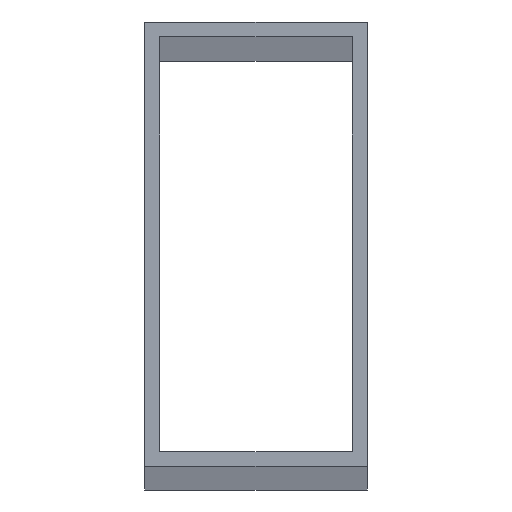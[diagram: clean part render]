
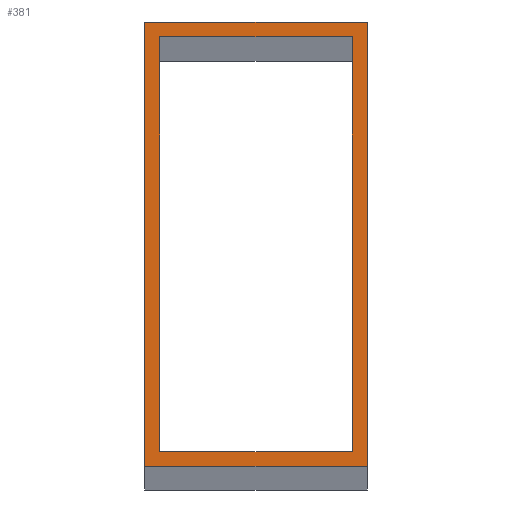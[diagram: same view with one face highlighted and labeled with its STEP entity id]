
A CAD part, top view. The second image highlights one B-rep face of the part: STEP entity #381.
In plain terms, the highlighted planar face has unit normal (0, 0, 1).
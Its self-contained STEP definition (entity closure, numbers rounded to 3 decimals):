
#32 = PLANE('',#33);
#33 = AXIS2_PLACEMENT_3D('',#34,#35,#36);
#34 = CARTESIAN_POINT('',(-37.5,-75.,-80.));
#35 = DIRECTION('',(0.,1.,0.));
#36 = DIRECTION('',(1.,0.,0.));
#55 = VERTEX_POINT('',#56);
#56 = CARTESIAN_POINT('',(-37.5,-75.,4648.118));
#70 = PLANE('',#71);
#71 = AXIS2_PLACEMENT_3D('',#72,#73,#74);
#72 = CARTESIAN_POINT('',(-37.5,75.,-80.));
#73 = DIRECTION('',(1.,0.,-0.));
#74 = DIRECTION('',(0.,-1.,0.));
#82 = EDGE_CURVE('',#55,#83,#85,.T.);
#83 = VERTEX_POINT('',#84);
#84 = CARTESIAN_POINT('',(37.5,-75.,4648.118));
#85 = SURFACE_CURVE('',#86,(#90,#97),.PCURVE_S1.);
#86 = LINE('',#87,#88);
#87 = CARTESIAN_POINT('',(-37.5,-75.,4648.118));
#88 = VECTOR('',#89,1.);
#89 = DIRECTION('',(1.,0.,0.));
#90 = PCURVE('',#32,#91);
#91 = DEFINITIONAL_REPRESENTATION('',(#92),#96);
#92 = LINE('',#93,#94);
#93 = CARTESIAN_POINT('',(0.,-4728.118));
#94 = VECTOR('',#95,1.);
#95 = DIRECTION('',(1.,0.));
#96 = ( GEOMETRIC_REPRESENTATION_CONTEXT(2) 
PARAMETRIC_REPRESENTATION_CONTEXT() REPRESENTATION_CONTEXT('2D SPACE',''
  ) );
#97 = PCURVE('',#98,#103);
#98 = PLANE('',#99);
#99 = AXIS2_PLACEMENT_3D('',#100,#101,#102);
#100 = CARTESIAN_POINT('',(0.,0.,4648.118));
#101 = DIRECTION('',(0.,0.,1.));
#102 = DIRECTION('',(1.,0.,-0.));
#103 = DEFINITIONAL_REPRESENTATION('',(#104),#108);
#104 = LINE('',#105,#106);
#105 = CARTESIAN_POINT('',(-37.5,-75.));
#106 = VECTOR('',#107,1.);
#107 = DIRECTION('',(1.,0.));
#108 = ( GEOMETRIC_REPRESENTATION_CONTEXT(2) 
PARAMETRIC_REPRESENTATION_CONTEXT() REPRESENTATION_CONTEXT('2D SPACE',''
  ) );
#124 = PLANE('',#125);
#125 = AXIS2_PLACEMENT_3D('',#126,#127,#128);
#126 = CARTESIAN_POINT('',(37.5,-75.,-80.));
#127 = DIRECTION('',(-1.,0.,0.));
#128 = DIRECTION('',(0.,1.,0.));
#223 = PLANE('',#224);
#224 = AXIS2_PLACEMENT_3D('',#225,#226,#227);
#225 = CARTESIAN_POINT('',(32.5,-70.,-80.));
#226 = DIRECTION('',(-1.,0.,0.));
#227 = DIRECTION('',(0.,1.,0.));
#249 = PLANE('',#250);
#250 = AXIS2_PLACEMENT_3D('',#251,#252,#253);
#251 = CARTESIAN_POINT('',(-32.5,-70.,-80.));
#252 = DIRECTION('',(0.,1.,0.));
#253 = DIRECTION('',(1.,0.,0.));
#275 = PLANE('',#276);
#276 = AXIS2_PLACEMENT_3D('',#277,#278,#279);
#277 = CARTESIAN_POINT('',(-32.5,70.,-80.));
#278 = DIRECTION('',(1.,0.,-0.));
#279 = DIRECTION('',(0.,-1.,0.));
#310 = EDGE_CURVE('',#83,#311,#313,.T.);
#311 = VERTEX_POINT('',#312);
#312 = CARTESIAN_POINT('',(37.5,75.,4648.118));
#313 = SURFACE_CURVE('',#314,(#318,#325),.PCURVE_S1.);
#314 = LINE('',#315,#316);
#315 = CARTESIAN_POINT('',(37.5,-75.,4648.118));
#316 = VECTOR('',#317,1.);
#317 = DIRECTION('',(0.,1.,0.));
#318 = PCURVE('',#124,#319);
#319 = DEFINITIONAL_REPRESENTATION('',(#320),#324);
#320 = LINE('',#321,#322);
#321 = CARTESIAN_POINT('',(0.,-4728.118));
#322 = VECTOR('',#323,1.);
#323 = DIRECTION('',(1.,0.));
#324 = ( GEOMETRIC_REPRESENTATION_CONTEXT(2) 
PARAMETRIC_REPRESENTATION_CONTEXT() REPRESENTATION_CONTEXT('2D SPACE',''
  ) );
#325 = PCURVE('',#98,#326);
#326 = DEFINITIONAL_REPRESENTATION('',(#327),#331);
#327 = LINE('',#328,#329);
#328 = CARTESIAN_POINT('',(37.5,-75.));
#329 = VECTOR('',#330,1.);
#330 = DIRECTION('',(0.,1.));
#331 = ( GEOMETRIC_REPRESENTATION_CONTEXT(2) 
PARAMETRIC_REPRESENTATION_CONTEXT() REPRESENTATION_CONTEXT('2D SPACE',''
  ) );
#349 = PLANE('',#350);
#350 = AXIS2_PLACEMENT_3D('',#351,#352,#353);
#351 = CARTESIAN_POINT('',(37.5,75.,-80.));
#352 = DIRECTION('',(0.,-1.,0.));
#353 = DIRECTION('',(-1.,0.,0.));
#381 = ADVANCED_FACE('',(#382,#430),#98,.T.);
#382 = FACE_BOUND('',#383,.T.);
#383 = EDGE_LOOP('',(#384,#385,#386,#409));
#384 = ORIENTED_EDGE('',*,*,#82,.T.);
#385 = ORIENTED_EDGE('',*,*,#310,.T.);
#386 = ORIENTED_EDGE('',*,*,#387,.T.);
#387 = EDGE_CURVE('',#311,#388,#390,.T.);
#388 = VERTEX_POINT('',#389);
#389 = CARTESIAN_POINT('',(-37.5,75.,4648.118));
#390 = SURFACE_CURVE('',#391,(#395,#402),.PCURVE_S1.);
#391 = LINE('',#392,#393);
#392 = CARTESIAN_POINT('',(37.5,75.,4648.118));
#393 = VECTOR('',#394,1.);
#394 = DIRECTION('',(-1.,0.,0.));
#395 = PCURVE('',#98,#396);
#396 = DEFINITIONAL_REPRESENTATION('',(#397),#401);
#397 = LINE('',#398,#399);
#398 = CARTESIAN_POINT('',(37.5,75.));
#399 = VECTOR('',#400,1.);
#400 = DIRECTION('',(-1.,0.));
#401 = ( GEOMETRIC_REPRESENTATION_CONTEXT(2) 
PARAMETRIC_REPRESENTATION_CONTEXT() REPRESENTATION_CONTEXT('2D SPACE',''
  ) );
#402 = PCURVE('',#349,#403);
#403 = DEFINITIONAL_REPRESENTATION('',(#404),#408);
#404 = LINE('',#405,#406);
#405 = CARTESIAN_POINT('',(0.,-4728.118));
#406 = VECTOR('',#407,1.);
#407 = DIRECTION('',(1.,0.));
#408 = ( GEOMETRIC_REPRESENTATION_CONTEXT(2) 
PARAMETRIC_REPRESENTATION_CONTEXT() REPRESENTATION_CONTEXT('2D SPACE',''
  ) );
#409 = ORIENTED_EDGE('',*,*,#410,.T.);
#410 = EDGE_CURVE('',#388,#55,#411,.T.);
#411 = SURFACE_CURVE('',#412,(#416,#423),.PCURVE_S1.);
#412 = LINE('',#413,#414);
#413 = CARTESIAN_POINT('',(-37.5,75.,4648.118));
#414 = VECTOR('',#415,1.);
#415 = DIRECTION('',(0.,-1.,0.));
#416 = PCURVE('',#98,#417);
#417 = DEFINITIONAL_REPRESENTATION('',(#418),#422);
#418 = LINE('',#419,#420);
#419 = CARTESIAN_POINT('',(-37.5,75.));
#420 = VECTOR('',#421,1.);
#421 = DIRECTION('',(0.,-1.));
#422 = ( GEOMETRIC_REPRESENTATION_CONTEXT(2) 
PARAMETRIC_REPRESENTATION_CONTEXT() REPRESENTATION_CONTEXT('2D SPACE',''
  ) );
#423 = PCURVE('',#70,#424);
#424 = DEFINITIONAL_REPRESENTATION('',(#425),#429);
#425 = LINE('',#426,#427);
#426 = CARTESIAN_POINT('',(0.,-4728.118));
#427 = VECTOR('',#428,1.);
#428 = DIRECTION('',(1.,0.));
#429 = ( GEOMETRIC_REPRESENTATION_CONTEXT(2) 
PARAMETRIC_REPRESENTATION_CONTEXT() REPRESENTATION_CONTEXT('2D SPACE',''
  ) );
#430 = FACE_BOUND('',#431,.F.);
#431 = EDGE_LOOP('',(#432,#457,#480,#508));
#432 = ORIENTED_EDGE('',*,*,#433,.T.);
#433 = EDGE_CURVE('',#434,#436,#438,.T.);
#434 = VERTEX_POINT('',#435);
#435 = CARTESIAN_POINT('',(-32.5,-70.,4648.118));
#436 = VERTEX_POINT('',#437);
#437 = CARTESIAN_POINT('',(32.5,-70.,4648.118));
#438 = SURFACE_CURVE('',#439,(#443,#450),.PCURVE_S1.);
#439 = LINE('',#440,#441);
#440 = CARTESIAN_POINT('',(-32.5,-70.,4648.118));
#441 = VECTOR('',#442,1.);
#442 = DIRECTION('',(1.,0.,0.));
#443 = PCURVE('',#98,#444);
#444 = DEFINITIONAL_REPRESENTATION('',(#445),#449);
#445 = LINE('',#446,#447);
#446 = CARTESIAN_POINT('',(-32.5,-70.));
#447 = VECTOR('',#448,1.);
#448 = DIRECTION('',(1.,0.));
#449 = ( GEOMETRIC_REPRESENTATION_CONTEXT(2) 
PARAMETRIC_REPRESENTATION_CONTEXT() REPRESENTATION_CONTEXT('2D SPACE',''
  ) );
#450 = PCURVE('',#249,#451);
#451 = DEFINITIONAL_REPRESENTATION('',(#452),#456);
#452 = LINE('',#453,#454);
#453 = CARTESIAN_POINT('',(0.,-4728.118));
#454 = VECTOR('',#455,1.);
#455 = DIRECTION('',(1.,0.));
#456 = ( GEOMETRIC_REPRESENTATION_CONTEXT(2) 
PARAMETRIC_REPRESENTATION_CONTEXT() REPRESENTATION_CONTEXT('2D SPACE',''
  ) );
#457 = ORIENTED_EDGE('',*,*,#458,.T.);
#458 = EDGE_CURVE('',#436,#459,#461,.T.);
#459 = VERTEX_POINT('',#460);
#460 = CARTESIAN_POINT('',(32.5,70.,4648.118));
#461 = SURFACE_CURVE('',#462,(#466,#473),.PCURVE_S1.);
#462 = LINE('',#463,#464);
#463 = CARTESIAN_POINT('',(32.5,-70.,4648.118));
#464 = VECTOR('',#465,1.);
#465 = DIRECTION('',(0.,1.,0.));
#466 = PCURVE('',#98,#467);
#467 = DEFINITIONAL_REPRESENTATION('',(#468),#472);
#468 = LINE('',#469,#470);
#469 = CARTESIAN_POINT('',(32.5,-70.));
#470 = VECTOR('',#471,1.);
#471 = DIRECTION('',(0.,1.));
#472 = ( GEOMETRIC_REPRESENTATION_CONTEXT(2) 
PARAMETRIC_REPRESENTATION_CONTEXT() REPRESENTATION_CONTEXT('2D SPACE',''
  ) );
#473 = PCURVE('',#223,#474);
#474 = DEFINITIONAL_REPRESENTATION('',(#475),#479);
#475 = LINE('',#476,#477);
#476 = CARTESIAN_POINT('',(0.,-4728.118));
#477 = VECTOR('',#478,1.);
#478 = DIRECTION('',(1.,0.));
#479 = ( GEOMETRIC_REPRESENTATION_CONTEXT(2) 
PARAMETRIC_REPRESENTATION_CONTEXT() REPRESENTATION_CONTEXT('2D SPACE',''
  ) );
#480 = ORIENTED_EDGE('',*,*,#481,.T.);
#481 = EDGE_CURVE('',#459,#482,#484,.T.);
#482 = VERTEX_POINT('',#483);
#483 = CARTESIAN_POINT('',(-32.5,70.,4648.118));
#484 = SURFACE_CURVE('',#485,(#489,#496),.PCURVE_S1.);
#485 = LINE('',#486,#487);
#486 = CARTESIAN_POINT('',(32.5,70.,4648.118));
#487 = VECTOR('',#488,1.);
#488 = DIRECTION('',(-1.,0.,0.));
#489 = PCURVE('',#98,#490);
#490 = DEFINITIONAL_REPRESENTATION('',(#491),#495);
#491 = LINE('',#492,#493);
#492 = CARTESIAN_POINT('',(32.5,70.));
#493 = VECTOR('',#494,1.);
#494 = DIRECTION('',(-1.,0.));
#495 = ( GEOMETRIC_REPRESENTATION_CONTEXT(2) 
PARAMETRIC_REPRESENTATION_CONTEXT() REPRESENTATION_CONTEXT('2D SPACE',''
  ) );
#496 = PCURVE('',#497,#502);
#497 = PLANE('',#498);
#498 = AXIS2_PLACEMENT_3D('',#499,#500,#501);
#499 = CARTESIAN_POINT('',(32.5,70.,-80.));
#500 = DIRECTION('',(0.,-1.,0.));
#501 = DIRECTION('',(-1.,0.,0.));
#502 = DEFINITIONAL_REPRESENTATION('',(#503),#507);
#503 = LINE('',#504,#505);
#504 = CARTESIAN_POINT('',(0.,-4728.118));
#505 = VECTOR('',#506,1.);
#506 = DIRECTION('',(1.,0.));
#507 = ( GEOMETRIC_REPRESENTATION_CONTEXT(2) 
PARAMETRIC_REPRESENTATION_CONTEXT() REPRESENTATION_CONTEXT('2D SPACE',''
  ) );
#508 = ORIENTED_EDGE('',*,*,#509,.T.);
#509 = EDGE_CURVE('',#482,#434,#510,.T.);
#510 = SURFACE_CURVE('',#511,(#515,#522),.PCURVE_S1.);
#511 = LINE('',#512,#513);
#512 = CARTESIAN_POINT('',(-32.5,70.,4648.118));
#513 = VECTOR('',#514,1.);
#514 = DIRECTION('',(0.,-1.,0.));
#515 = PCURVE('',#98,#516);
#516 = DEFINITIONAL_REPRESENTATION('',(#517),#521);
#517 = LINE('',#518,#519);
#518 = CARTESIAN_POINT('',(-32.5,70.));
#519 = VECTOR('',#520,1.);
#520 = DIRECTION('',(0.,-1.));
#521 = ( GEOMETRIC_REPRESENTATION_CONTEXT(2) 
PARAMETRIC_REPRESENTATION_CONTEXT() REPRESENTATION_CONTEXT('2D SPACE',''
  ) );
#522 = PCURVE('',#275,#523);
#523 = DEFINITIONAL_REPRESENTATION('',(#524),#528);
#524 = LINE('',#525,#526);
#525 = CARTESIAN_POINT('',(0.,-4728.118));
#526 = VECTOR('',#527,1.);
#527 = DIRECTION('',(1.,0.));
#528 = ( GEOMETRIC_REPRESENTATION_CONTEXT(2) 
PARAMETRIC_REPRESENTATION_CONTEXT() REPRESENTATION_CONTEXT('2D SPACE',''
  ) );
